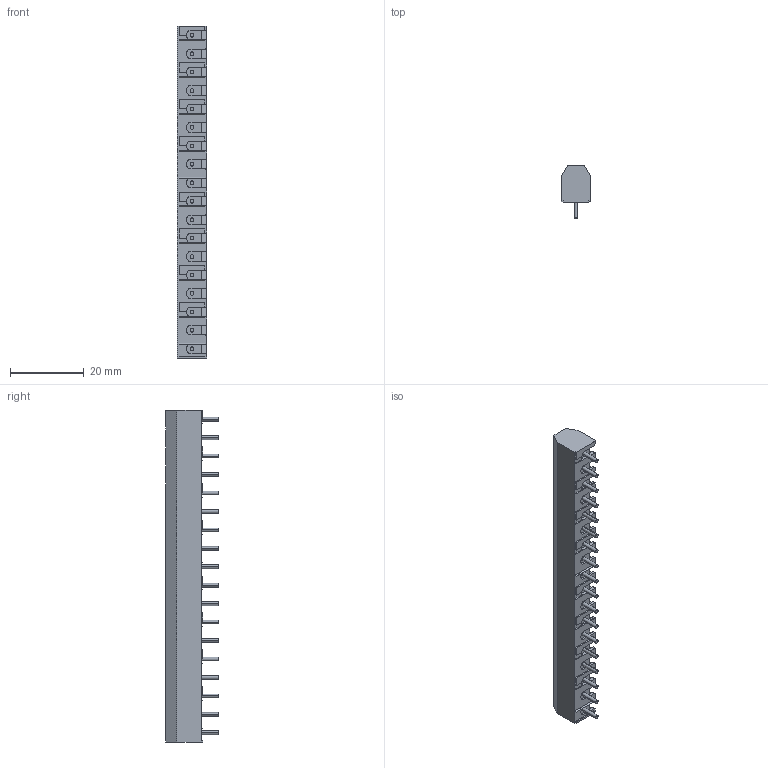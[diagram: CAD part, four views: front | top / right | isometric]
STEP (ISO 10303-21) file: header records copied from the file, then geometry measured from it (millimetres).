
FILE_DESCRIPTION (( 'STEP AP214' ), '1' );
FILE_NAME ('950-FB-18.STEP', '2008-03-31T02:09:06', ( ' ' ), ( '' ), 'SwSTEP 2.0', 'SolidWorks 2007', '' );
FILE_SCHEMA (( 'AUTOMOTIVE_DESIGN' ));
Length unit declared in the file: millimetre
Products named in the file (1): 950-FB-18
Bounding box: 8 x 14.2 x 90 mm (x, y, z)
Volume: 5041.1 mm3; surface area: 5541.7 mm2
Topology: 1 solids, 1 shells, 1320 faces, 3870 edges, 2570 vertices
Faces by surface type: plane 984, cylinder 296, cone 40
Entity records: 47583 total; most frequent: CARTESIAN_POINT 13762, ORIENTED_EDGE 7740, DIRECTION 6018, EDGE_CURVE 3870, VECTOR 2658, LINE 2658, VERTEX_POINT 2570, AXIS2_PLACEMENT_3D 1680
